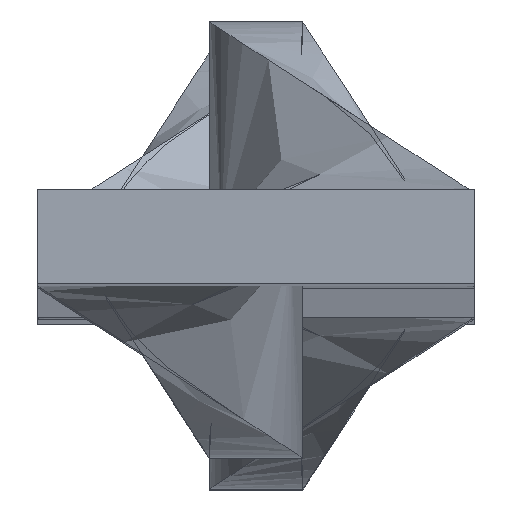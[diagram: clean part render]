
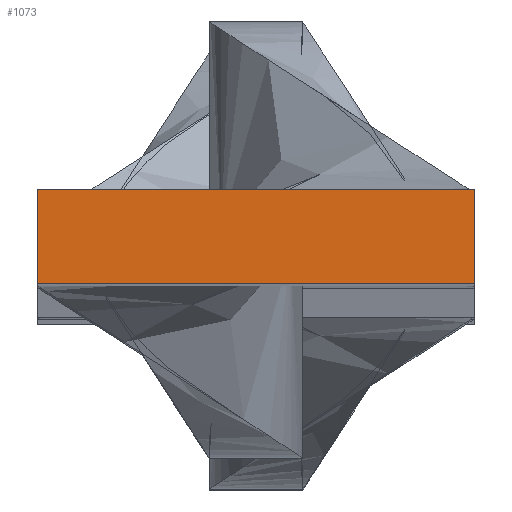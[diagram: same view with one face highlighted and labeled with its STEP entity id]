
A CAD part, top view. The second image highlights one B-rep face of the part: STEP entity #1073.
In plain terms, the highlighted planar face has unit normal (0, 0, 1).
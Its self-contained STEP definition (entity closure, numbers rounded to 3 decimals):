
#20 = ORIENTED_EDGE ( 'NONE', *, *, #1257, .F. ) ;
#24 = CARTESIAN_POINT ( 'NONE',  ( -7., -1.5, 758.5 ) ) ;
#46 = ORIENTED_EDGE ( 'NONE', *, *, #544, .F. ) ;
#54 = LINE ( 'NONE', #1175, #1311 ) ;
#87 = CARTESIAN_POINT ( 'NONE',  ( -7., -1.5, 758.5 ) ) ;
#165 = DIRECTION ( 'NONE',  ( -1., 0., 0. ) ) ;
#187 = CARTESIAN_POINT ( 'NONE',  ( -7., 1.5, 758.5 ) ) ;
#225 = CARTESIAN_POINT ( 'NONE',  ( 7., -1.5, 758.5 ) ) ;
#277 = LINE ( 'NONE', #187, #1137 ) ;
#295 = DIRECTION ( 'NONE',  ( 0., 1., 0. ) ) ;
#315 = VERTEX_POINT ( 'NONE', #542 ) ;
#331 = VERTEX_POINT ( 'NONE', #615 ) ;
#340 = EDGE_LOOP ( 'NONE', ( #46, #20, #1079, #732 ) ) ;
#358 = VECTOR ( 'NONE', #165, 1000. ) ;
#400 = LINE ( 'NONE', #225, #358 ) ;
#526 = EDGE_CURVE ( 'NONE', #566, #331, #277, .T. ) ;
#542 = CARTESIAN_POINT ( 'NONE',  ( 7., -1.5, 758.5 ) ) ;
#544 = EDGE_CURVE ( 'NONE', #759, #566, #1293, .T. ) ;
#566 = VERTEX_POINT ( 'NONE', #1267 ) ;
#615 = CARTESIAN_POINT ( 'NONE',  ( 7., 1.5, 758.5 ) ) ;
#629 = EDGE_CURVE ( 'NONE', #331, #315, #54, .T. ) ;
#658 = DIRECTION ( 'NONE',  ( 0., -1., 0. ) ) ;
#732 = ORIENTED_EDGE ( 'NONE', *, *, #526, .F. ) ;
#759 = VERTEX_POINT ( 'NONE', #87 ) ;
#901 = DIRECTION ( 'NONE',  ( 1., 0., 0. ) ) ;
#944 = VECTOR ( 'NONE', #295, 1000. ) ;
#1069 = DIRECTION ( 'NONE',  ( -1., 0., 0. ) ) ;
#1071 = DIRECTION ( 'NONE',  ( 0., 0., -1. ) ) ;
#1073 = ADVANCED_FACE ( 'NONE', ( #1166 ), #1080, .F. ) ;
#1077 = CARTESIAN_POINT ( 'NONE',  ( 0., 0., 758.5 ) ) ;
#1079 = ORIENTED_EDGE ( 'NONE', *, *, #629, .F. ) ;
#1080 = PLANE ( 'NONE',  #1229 ) ;
#1137 = VECTOR ( 'NONE', #901, 1000. ) ;
#1166 = FACE_OUTER_BOUND ( 'NONE', #340, .T. ) ;
#1175 = CARTESIAN_POINT ( 'NONE',  ( 7., 1.5, 758.5 ) ) ;
#1229 = AXIS2_PLACEMENT_3D ( 'NONE', #1077, #1071, #1069 ) ;
#1257 = EDGE_CURVE ( 'NONE', #315, #759, #400, .T. ) ;
#1267 = CARTESIAN_POINT ( 'NONE',  ( -7., 1.5, 758.5 ) ) ;
#1293 = LINE ( 'NONE', #24, #944 ) ;
#1311 = VECTOR ( 'NONE', #658, 1000. ) ;
